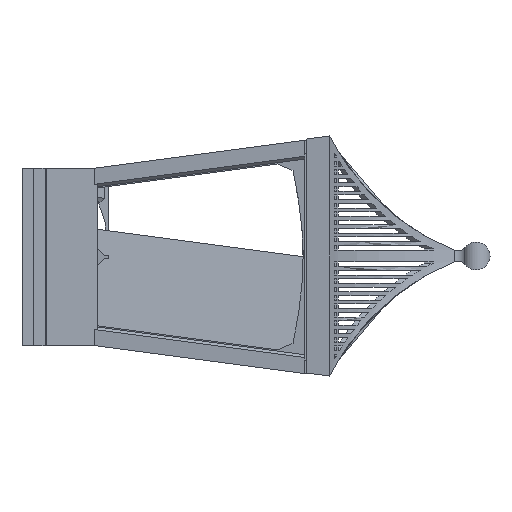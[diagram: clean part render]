
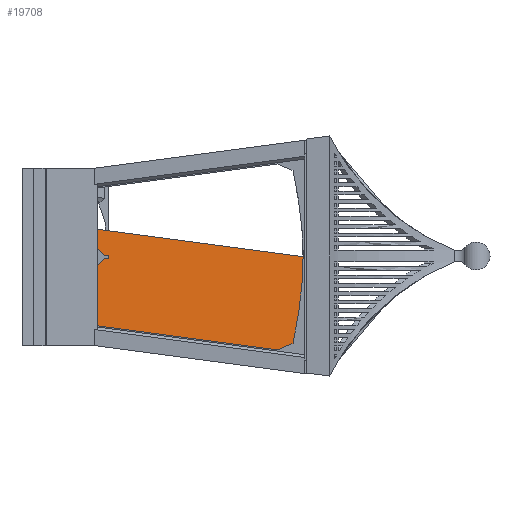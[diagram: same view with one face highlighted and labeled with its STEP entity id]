
A CAD part, left-side view. The second image highlights one B-rep face of the part: STEP entity #19708.
In plain terms, the highlighted planar face has unit normal (-0.991, -0.132, 0).
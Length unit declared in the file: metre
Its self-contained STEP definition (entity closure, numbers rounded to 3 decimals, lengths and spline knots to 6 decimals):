
#1165=ORIENTED_EDGE('',*,*,#7009,.T.);
#1166=ORIENTED_EDGE('',*,*,#7011,.F.);
#1167=ORIENTED_EDGE('',*,*,#7012,.F.);
#1168=ORIENTED_EDGE('',*,*,#7013,.T.);
#7009=EDGE_CURVE('',#9934,#9933,#11883,.T.);
#7011=EDGE_CURVE('',#9935,#9933,#11885,.F.);
#7012=EDGE_CURVE('',#9936,#9935,#11886,.T.);
#7013=EDGE_CURVE('',#9936,#9934,#11887,.F.);
#9933=VERTEX_POINT('',#28679);
#9934=VERTEX_POINT('',#28681);
#9935=VERTEX_POINT('',#28685);
#9936=VERTEX_POINT('',#28687);
#11883=LINE('',#28680,#13824);
#11885=LINE('',#28684,#13826);
#11886=LINE('',#28686,#13827);
#11887=LINE('',#28688,#13828);
#13824=VECTOR('',#22889,1.);
#13826=VECTOR('',#22893,1.);
#13827=VECTOR('',#22894,1.);
#13828=VECTOR('',#22895,1.);
#15754=EDGE_LOOP('',(#1165,#1166,#1167,#1168));
#17218=FACE_BOUND('',#15754,.T.);
#18682=PLANE('',#20935);
#19708=ADVANCED_FACE('',(#17218),#18682,.T.);
#20935=AXIS2_PLACEMENT_3D('',#28683,#22891,#22892);
#22889=DIRECTION('',(-0.131,0.983,0.131));
#22891=DIRECTION('',(-0.991,-0.132,0.));
#22892=DIRECTION('',(0.132,-0.991,0.));
#22893=DIRECTION('',(0.,0.,-1.));
#22894=DIRECTION('',(-0.131,0.983,0.131));
#22895=DIRECTION('',(0.,0.,-1.));
#28679=CARTESIAN_POINT('',(-0.012,0.,0.012));
#28680=CARTESIAN_POINT('',(0.,-0.09,0.));
#28681=CARTESIAN_POINT('',(0.,-0.09,0.));
#28683=CARTESIAN_POINT('',(0.,-0.09,-0.0448));
#28684=CARTESIAN_POINT('',(-0.012,0.,-0.0328));
#28685=CARTESIAN_POINT('',(-0.012,0.,-0.0338));
#28686=CARTESIAN_POINT('',(0.,-0.09,-0.0458));
#28687=CARTESIAN_POINT('',(0.,-0.09,-0.0458));
#28688=CARTESIAN_POINT('',(0.,-0.09,-0.0448));
